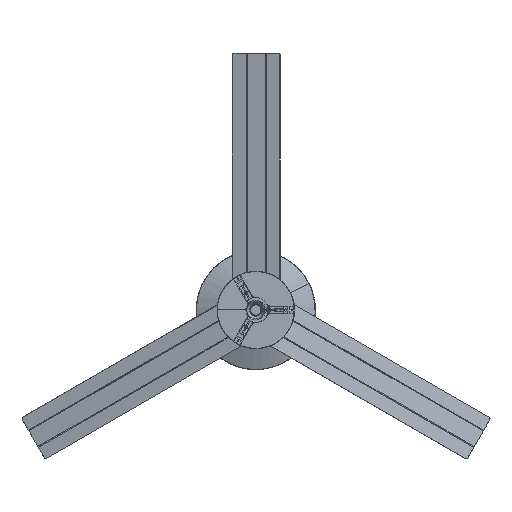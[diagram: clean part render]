
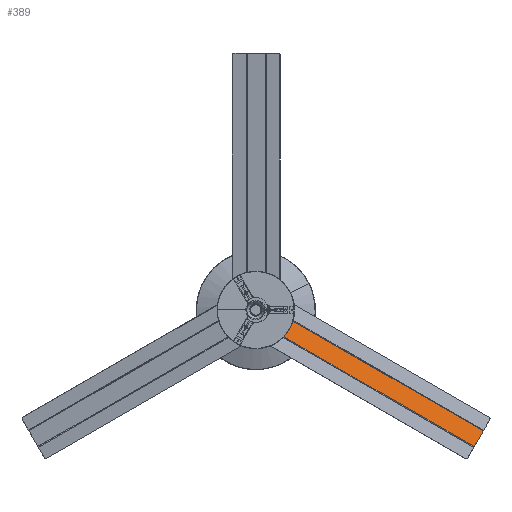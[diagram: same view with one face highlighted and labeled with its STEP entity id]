
A CAD part, top view. The second image highlights one B-rep face of the part: STEP entity #389.
In plain terms, the highlighted planar face has unit normal (0.113, 0.195, 0.974).
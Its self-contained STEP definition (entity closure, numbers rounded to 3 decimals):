
#152=FACE_BOUND('',#2589,.T.);
#389=ADVANCED_FACE('',(#1485,#152),#18411,.T.);
#1485=FACE_OUTER_BOUND('',#2588,.T.);
#2588=EDGE_LOOP('',(#4591,#4592,#4593,#4594));
#2589=EDGE_LOOP('',(#4595,#4596));
#4591=ORIENTED_EDGE('',*,*,#9956,.T.);
#4592=ORIENTED_EDGE('',*,*,#9957,.F.);
#4593=ORIENTED_EDGE('',*,*,#9972,.T.);
#4594=ORIENTED_EDGE('',*,*,#9958,.F.);
#4595=ORIENTED_EDGE('',*,*,#9911,.T.);
#4596=ORIENTED_EDGE('',*,*,#9913,.T.);
#9911=EDGE_CURVE('',#16360,#16359,#12448,.T.);
#9913=EDGE_CURVE('',#16359,#16360,#12449,.T.);
#9956=EDGE_CURVE('',#16304,#16289,#12455,.T.);
#9957=EDGE_CURVE('',#16287,#16289,#14542,.T.);
#9958=EDGE_CURVE('',#16304,#16309,#14543,.T.);
#9972=EDGE_CURVE('',#16287,#16309,#14555,.T.);
#12448=TRIMMED_CURVE($,#13098,(#24799),(#24800),.T.,.CARTESIAN.);
#12449=TRIMMED_CURVE($,#13099,(#24804),(#24805),.T.,.CARTESIAN.);
#12455=TRIMMED_CURVE($,#13105,(#24912),(#24913),.T.,.CARTESIAN.);
#13098=CIRCLE('',#19237,2.6);
#13099=CIRCLE('',#19238,2.6);
#13105=CIRCLE('',#19244,56.);
#14542=B_SPLINE_CURVE_WITH_KNOTS('',1,(#24914,#24915),.UNSPECIFIED.,.F.,
 .F.,(2,2),(-609.372,0.),.UNSPECIFIED.);
#14543=B_SPLINE_CURVE_WITH_KNOTS('',1,(#24916,#24917),.UNSPECIFIED.,.F.,
 .F.,(2,2),(-609.414,0.),.UNSPECIFIED.);
#14555=B_SPLINE_CURVE_WITH_KNOTS('',1,(#24946,#24947),.UNSPECIFIED.,.F.,
 .F.,(2,2),(-48.,0.),.UNSPECIFIED.);
#16287=VERTEX_POINT('',#24426);
#16289=VERTEX_POINT('',#24428);
#16304=VERTEX_POINT('',#24443);
#16309=VERTEX_POINT('',#24448);
#16359=VERTEX_POINT('',#24498);
#16360=VERTEX_POINT('',#24499);
#18411=PLANE('',#19217);
#19217=AXIS2_PLACEMENT_3D('',#24401,#20903,$);
#19237=AXIS2_PLACEMENT_3D($,#24798,#20931,#20932);
#19238=AXIS2_PLACEMENT_3D($,#24803,#20933,#20934);
#19244=AXIS2_PLACEMENT_3D($,#24911,#20945,#20946);
#20903=DIRECTION('',(0.112,0.195,0.974));
#20931=DIRECTION('',(-0.112,-0.195,-0.974));
#20932=DIRECTION('',(0.487,0.844,-0.225));
#20933=DIRECTION('',(-0.112,-0.195,-0.974));
#20934=DIRECTION('',(-0.487,-0.844,0.225));
#20945=DIRECTION('',(-0.112,-0.195,-0.974));
#20946=DIRECTION('',(0.991,-0.089,-0.097));
#24401=CARTESIAN_POINT('',(17330.547,-6857.004,72.907));
#24426=CARTESIAN_POINT('',(17280.075,-6822.301,71.795));
#24428=CARTESIAN_POINT('',(16752.343,-6517.615,71.795));
#24443=CARTESIAN_POINT('',(16775.692,-6477.091,60.998));
#24448=CARTESIAN_POINT('',(17303.46,-6781.798,60.998));
#24498=CARTESIAN_POINT('',(16776.935,-6507.786,66.991));
#24499=CARTESIAN_POINT('',(16779.468,-6503.398,65.821));
#24798=CARTESIAN_POINT('',(16778.202,-6505.592,66.406));
#24799=CARTESIAN_POINT('',(16779.468,-6503.398,65.821));
#24800=CARTESIAN_POINT('',(16776.935,-6507.786,66.991));
#24803=CARTESIAN_POINT('',(16778.202,-6505.592,66.406));
#24804=CARTESIAN_POINT('',(16776.935,-6507.786,66.991));
#24805=CARTESIAN_POINT('',(16779.468,-6503.398,65.821));
#24911=CARTESIAN_POINT('',(16720.178,-6472.092,66.406));
#24912=CARTESIAN_POINT('',(16775.692,-6477.091,60.998));
#24913=CARTESIAN_POINT('',(16752.343,-6517.615,71.795));
#24914=CARTESIAN_POINT('',(17280.075,-6822.301,71.795));
#24915=CARTESIAN_POINT('',(16752.343,-6517.615,71.795));
#24916=CARTESIAN_POINT('',(16775.692,-6477.091,60.998));
#24917=CARTESIAN_POINT('',(17303.46,-6781.798,60.998));
#24946=CARTESIAN_POINT('',(17280.075,-6822.301,71.795));
#24947=CARTESIAN_POINT('',(17303.46,-6781.798,60.998));
